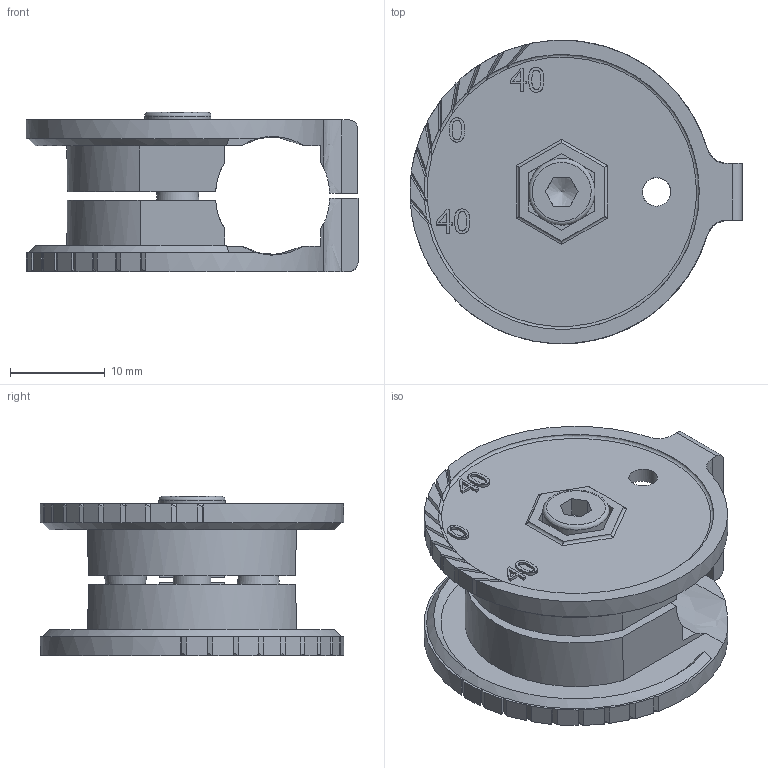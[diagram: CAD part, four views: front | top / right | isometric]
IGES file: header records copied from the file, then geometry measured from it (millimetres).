
Global section: file name: 153-01155_MBD F25 STP; native system: Autodesk Inventor 2014; preprocessor: unknown; author: ss263; date: 20141127.095416; units: millimetre
Bounding box: 34.99 x 31.98 x 16.8 mm (x, y, z)
Volume: 6762.1 mm3; surface area: 5657.5 mm2
Topology: 4 solids, 4 shells, 388 faces, 965 edges, 616 vertices
Faces by surface type: bspline 388
